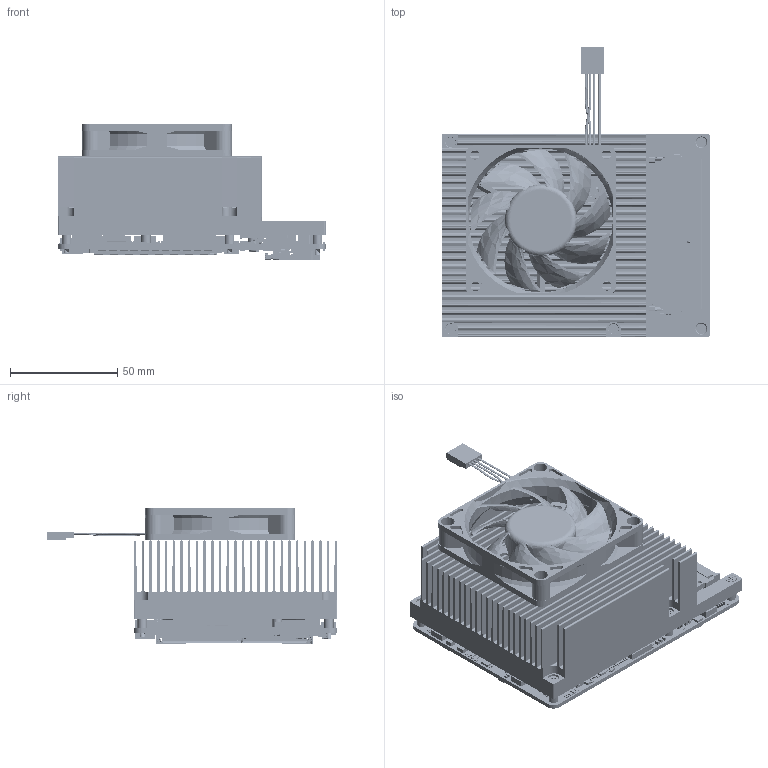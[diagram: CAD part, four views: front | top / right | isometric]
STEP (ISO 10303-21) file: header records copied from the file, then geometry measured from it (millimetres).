
FILE_DESCRIPTION((''),'2;1');
FILE_NAME('0-ESM-TGH_ASM','2022-09-08T17:37:24',('kobe_chang'),(''),'CREO PARAMETRIC BY PTC INC, 2018300','CREO PARAMETRIC BY PTC INC, 2018300','');
FILE_SCHEMA(('CONFIG_CONTROL_DESIGN','GEOMETRIC_VALIDATION_PROPERTIES_MIM'));
Products named in the file (94): ESM-TGH-PCB; E16712B0201H; E16A37D0414H; E16A37D041DH; E16A37D0404H; K10500_REV01_TGL-H_8C-GT1; K44490_R01; E1212201510H; E1212204715H; E121220102LH; DDR4-SO; ESM-TGH_HEATSPREADER; PK404-10-10-0_5T; ESM-TGH_HEATSPREADER-CU; PK404-7-7-1T; E1961223000023R_ASM; ESM_36H-HEATSINK; FAN-7015_ASM; E1961123450003R_ASM; E123133272AH; E1231302767H; E118X633760H; E118XX33780H; E14S4751702H; E1315342410H; E1315331310H; E1315450810H; 1; 2; E1213103004H; E1213101215H; E0030100003; E0030100001; A-R0603; A-R0402; E0030100000; E1304100040H; E121220471F000H; E1213103000H; E121220102QH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
Assembly tree (1478 placements, depth 3):
  0-ESM-TGH_ASM
    ESM-TGH-PCB
    E16712B0201H  x2
    E16A37D0414H
    E16A37D041DH
    E16A37D0404H
    K10500_REV01_TGL-H_8C-GT1
    K44490_R01
    E1212201510H  x3
    E1212204715H
    E121220102LH
    DDR4-SO
    E1961223000023R_ASM
      ESM-TGH_HEATSPREADER
      PK404-10-10-0_5T
      ESM-TGH_HEATSPREADER-CU
      PK404-7-7-1T  x2
    E1961123450003R_ASM
      ESM_36H-HEATSINK
      FAN-7015_ASM
    ESM-TGH_A01-M_20211001_ASM
      E123133272AH
      E1231302767H  x2
      E118X633760H  x2
      E118XX33780H  x5
      E14S4751702H
      E1315342410H  x2
      E1315331310H
      E1315450810H  x5
      1
      2
      E1213103004H  x9
      E1213101215H  x2
      E0030100003
      E0030100001  x31
      A-R0603  x23
      A-R0402  x585
      E0030100000  x10
      E1304100040H
      E121220471F000H
      E1212201510H  x3
      E1213103000H  x4
      E121220102QH
      E1212201529H
      E121220102LH
      E1212201520H
      E1212204715H
      E1212206811H
      E118X633782H  x2
      E1301075140R
      E1301034040H  x3
      E1301581741H  x2
      E1300051640H  x16
      E1305032340H
      A-C0805  x36
      A-C0402  x377
      A-C0603  x174
      E11216105A1H-M1  x69
      E1301005440H  x2
      E1315013812H  x3
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Bounding box: 125 x 135.6 x 63.2 mm (x, y, z)
Volume: 248755.2 mm3; surface area: 254557.2 mm2
Topology: 1478 solids, 1478 shells, 21123 faces, 51650 edges, 34050 vertices
Faces by surface type: plane 19095, cylinder 1578, bspline 256, cone 107, torus 41, extrusion 36, revolution 8, sphere 2
Entity records: 337798 total; most frequent: CARTESIAN_POINT 77099, DIRECTION 48368, ORIENTED_EDGE 46980, EDGE_CURVE 23490, VECTOR 19504, LINE 19468, VERTEX_POINT 15378, AXIS2_PLACEMENT_3D 14428
